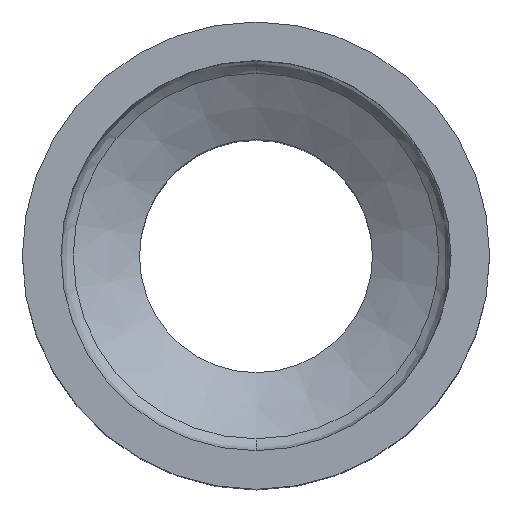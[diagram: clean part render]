
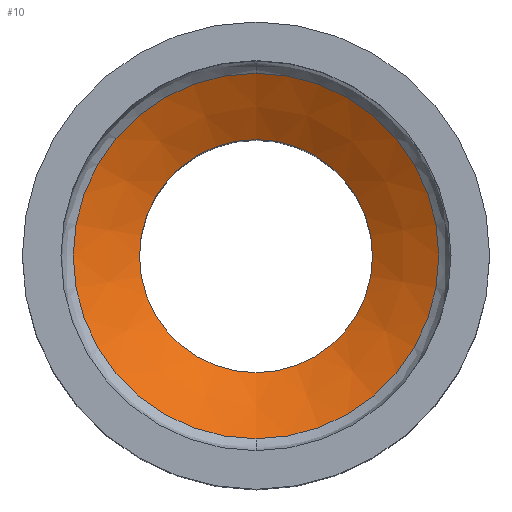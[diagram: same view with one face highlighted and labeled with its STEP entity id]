
A CAD part, top view. The second image highlights one B-rep face of the part: STEP entity #10.
In plain terms, the highlighted conical face has half-angle 60 degrees and reference radius 4.75 mm.
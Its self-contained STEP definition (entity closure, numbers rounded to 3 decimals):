
#10 = ADVANCED_FACE ( 'NONE', ( #52, #43 ), #524, .F. ) ;
#43 = FACE_BOUND ( 'NONE', #359, .T. ) ;
#52 = FACE_OUTER_BOUND ( 'NONE', #373, .T. ) ;
#80 = AXIS2_PLACEMENT_3D ( 'NONE', #416, #417, #418 ) ;
#102 = AXIS2_PLACEMENT_3D ( 'NONE', #273, #274, #275 ) ;
#106 = AXIS2_PLACEMENT_3D ( 'NONE', #276, #277, #278 ) ;
#128 = AXIS2_PLACEMENT_3D ( 'NONE', #464, #465, #466 ) ;
#143 = CIRCLE ( 'NONE', #102, 7.45 ) ;
#144 = CIRCLE ( 'NONE', #106, 7.45 ) ;
#171 = ORIENTED_EDGE ( 'NONE', *, *, #548, .T. ) ;
#172 = ORIENTED_EDGE ( 'NONE', *, *, #522, .T. ) ;
#199 = ORIENTED_EDGE ( 'NONE', *, *, #549, .T. ) ;
#273 = CARTESIAN_POINT ( 'NONE',  ( 0., 0., -8.366 ) ) ;
#274 = DIRECTION ( 'NONE',  ( 0., 0., 1. ) ) ;
#275 = DIRECTION ( 'NONE',  ( 1., 0., 0. ) ) ;
#276 = CARTESIAN_POINT ( 'NONE',  ( 0., 0., -8.366 ) ) ;
#277 = DIRECTION ( 'NONE',  ( 0., 0., 1. ) ) ;
#278 = DIRECTION ( 'NONE',  ( 1., 0., 0. ) ) ;
#300 = VERTEX_POINT ( 'NONE', #301 ) ;
#301 = CARTESIAN_POINT ( 'NONE',  ( 0., 4.75, -9.925 ) ) ;
#359 = EDGE_LOOP ( 'NONE', ( #172 ) ) ;
#371 = VERTEX_POINT ( 'NONE', #456 ) ;
#372 = VERTEX_POINT ( 'NONE', #457 ) ;
#373 = EDGE_LOOP ( 'NONE', ( #199, #171 ) ) ;
#416 = CARTESIAN_POINT ( 'NONE',  ( 0., 0., -9.925 ) ) ;
#417 = DIRECTION ( 'NONE',  ( 0., 0., 1. ) ) ;
#418 = DIRECTION ( 'NONE',  ( 1., 0., 0. ) ) ;
#456 = CARTESIAN_POINT ( 'NONE',  ( 0., -7.45, -8.366 ) ) ;
#457 = CARTESIAN_POINT ( 'NONE',  ( 0., 7.45, -8.366 ) ) ;
#464 = CARTESIAN_POINT ( 'NONE',  ( 0., 0., -9.925 ) ) ;
#465 = DIRECTION ( 'NONE',  ( 0., 0., -1. ) ) ;
#466 = DIRECTION ( 'NONE',  ( 0., 1., 0. ) ) ;
#522 = EDGE_CURVE ( 'NONE', #300, #300, #567, .T. ) ;
#524 = CONICAL_SURFACE ( 'NONE', #80, 4.75, 1.047 ) ;
#548 = EDGE_CURVE ( 'NONE', #371, #372, #143, .T. ) ;
#549 = EDGE_CURVE ( 'NONE', #372, #371, #144, .T. ) ;
#567 = CIRCLE ( 'NONE', #128, 4.75 ) ;
